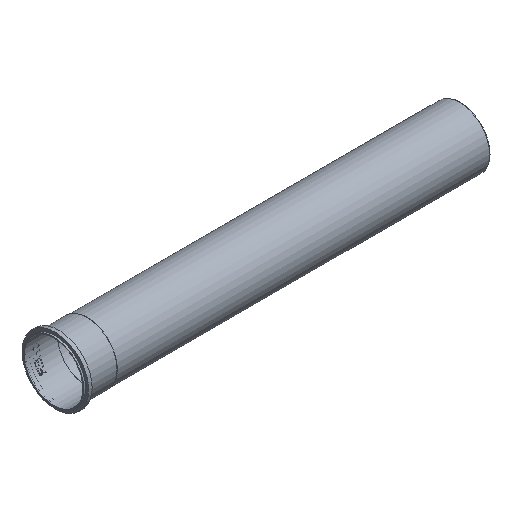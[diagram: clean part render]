
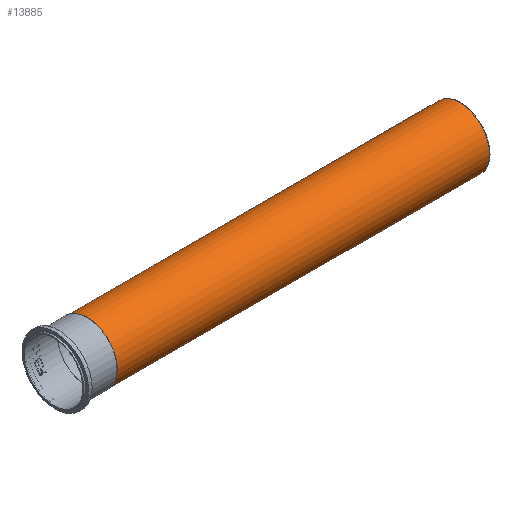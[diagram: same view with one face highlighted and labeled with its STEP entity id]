
A CAD part, isometric view. The second image highlights one B-rep face of the part: STEP entity #13885.
In plain terms, the highlighted cylindrical face has radius 54.991 mm (diameter 109.982 mm), a full revolution.
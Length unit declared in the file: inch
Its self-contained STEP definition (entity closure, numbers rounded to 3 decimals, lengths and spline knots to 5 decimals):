
#13854=CARTESIAN_POINT('',(2.44,2.165,0.0));
#13855=VERTEX_POINT('',#13854);
#13856=CARTESIAN_POINT('',(2.44,0.0,0.0));
#13857=DIRECTION('',(1.0,0.0,0.0));
#13858=DIRECTION('',(0.0,1.0,0.0));
#13859=AXIS2_PLACEMENT_3D('',#13856,#13857,#13858);
#13860=CIRCLE('',#13859,2.165);
#13861=EDGE_CURVE('',#13855,#13855,#13860,.T.);
#13866=CARTESIAN_POINT('',(15.98378,0.0,0.0));
#13867=DIRECTION('',(1.0,0.0,0.0));
#13868=DIRECTION('',(0.0,1.0,0.0));
#13869=AXIS2_PLACEMENT_3D('',#13866,#13867,#13868);
#13870=CYLINDRICAL_SURFACE('',#13869,2.165);
#13871=CARTESIAN_POINT('',(29.52756,2.165,0.0));
#13872=VERTEX_POINT('',#13871);
#13873=CARTESIAN_POINT('',(29.52756,0.0,0.0));
#13874=DIRECTION('',(1.0,0.0,0.0));
#13875=DIRECTION('',(0.0,1.0,0.0));
#13876=AXIS2_PLACEMENT_3D('',#13873,#13874,#13875);
#13877=CIRCLE('',#13876,2.165);
#13878=EDGE_CURVE('',#13872,#13872,#13877,.T.);
#13879=ORIENTED_EDGE('',*,*,#13878,.F.);
#13880=EDGE_LOOP('',(#13879));
#13881=FACE_OUTER_BOUND('',#13880,.T.);
#13882=ORIENTED_EDGE('',*,*,#13861,.T.);
#13883=EDGE_LOOP('',(#13882));
#13884=FACE_BOUND('',#13883,.T.);
#13885=ADVANCED_FACE('',(#13881,#13884),#13870,.T.);
